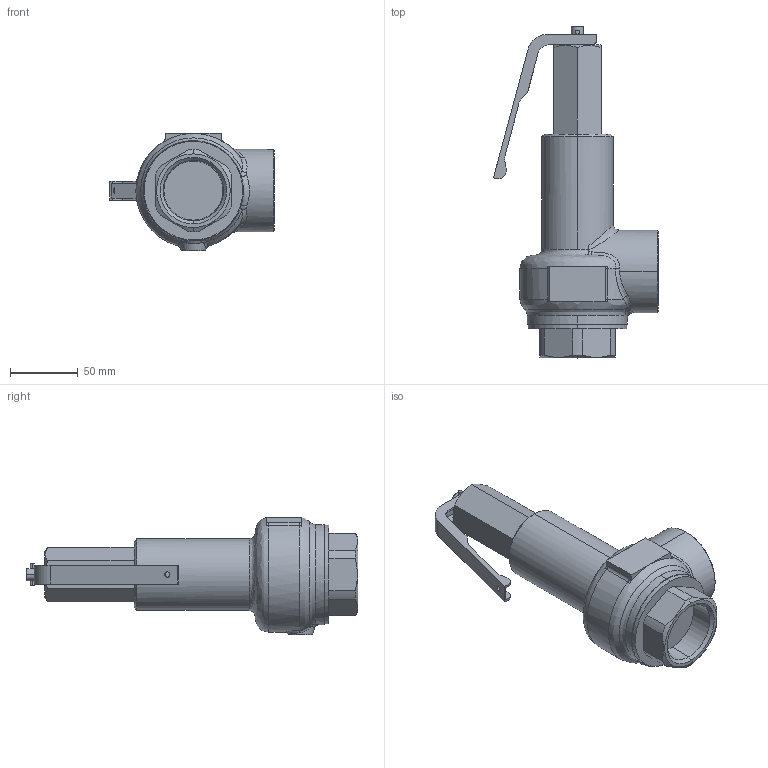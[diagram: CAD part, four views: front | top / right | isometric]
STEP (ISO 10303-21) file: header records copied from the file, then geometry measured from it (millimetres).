
FILE_DESCRIPTION( (''), '2;1');
FILE_NAME ('PC1276.14284.AL-140ML 40A_31166.stp','2025-12-05T09:04:04',(''),(''),'spGate 20.6.3 (****-****-****-****)','','');
FILE_SCHEMA (('AUTOMOTIVE_DESIGN'));
Length unit declared in the file: millimetre
Products named in the file (3): Assembly; AL-15 Lever 40-50A; AL-140ML 40A(Non-Lever)
Assembly tree (2 placements, depth 2):
  Assembly
    AL-15 Lever 40-50A
    AL-140ML 40A(Non-Lever)
Bounding box: 122.03 x 245.5 x 87 mm (x, y, z)
Volume: 635895.5 mm3; surface area: 67570.1 mm2
Topology: 2 solids, 2 shells, 148 faces, 373 edges, 238 vertices
Faces by surface type: plane 55, bspline 49, cylinder 44
Entity records: 9431 total; most frequent: CARTESIAN_POINT 3185, ORIENTED_EDGE 746, DIRECTION 594, COLOUR_RGB 523, PRESENTATION_STYLE_ASSIGNMENT 523, STYLED_ITEM 523, EDGE_CURVE 373, DRAUGHTING_PRE_DEFINED_CURVE_FONT 373
